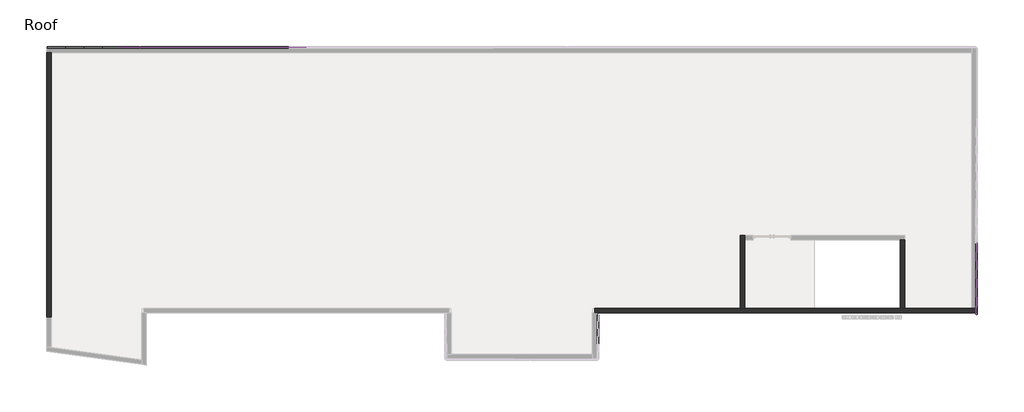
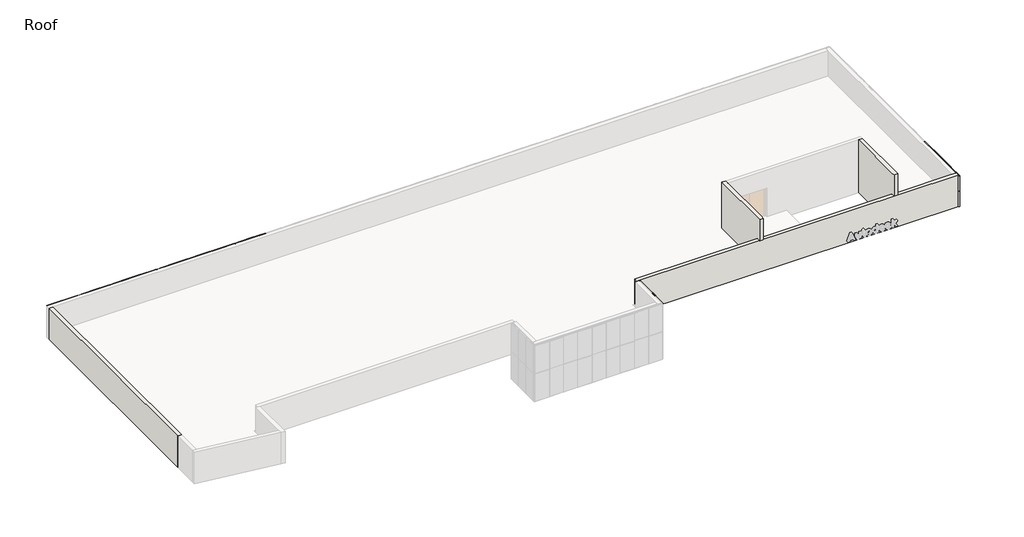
# One storey, part 2 of 5: 70 members, 37 plates, 4 walls.
"""IFC4 building model written with IfcOpenShell, lengths in millimetres."""

from ifc_helpers import new_model, si_unit, frame, origin, place, context, project, spatial, polyline, outline, extrude, faceted_brep, transform, mapped, element, save
from components import rectangular_mullion_25x25mm_786a5d36, rectangular_mullion_25x25mm_00ce815f, rectangular_mullion_25x25mm_09969e68, rectangular_mullion_25x25mm_ef735152, rectangular_mullion_25x25mm_e862664b, rectangular_mullion_25x25mm_75dba7a0, rectangular_mullion_25x25mm_4965c664, rectangular_mullion_25x25mm_c76a5620, rectangular_mullion_25x25mm_8def5214, rectangular_mullion_25x25mm_4aee0d92, rectangular_mullion_25x25mm_b2ae1b76, curtain_panels_solid_solid_panel_green_f9f5bd6f, curtain_panels_solid_solid_panel_green_e697928e, curtain_panels_solid_solid_panel_green_c18a3c81, curtain_panels_solid_solid_panel_green_cec9bcfa

model = new_model("IFC4")

# Units and contexts
model_context = context("Model", 3, world=origin())
ifc_project = project(units=[si_unit("LENGTHUNIT", "METRE", prefix="MILLI")], contexts=[model_context])

# Site, building, storey
site = spatial("IfcSite", under=ifc_project)
building = spatial("IfcBuilding", under=site)
storey = spatial("IfcBuildingStorey", under=building, Name="Roof", Elevation=14600.0)

# Members
placement = place(None, origin())
rectangular_mullion_25x25mm_shape = rectangular_mullion_25x25mm_786a5d36(model_context)
element("IfcMember", 1, ObjectType="Rectangular Mullion : 25x25mm", at=placement, inside=storey, context=model_context, shape_type="MappedRepresentation", body=[
    mapped(rectangular_mullion_25x25mm_shape, transform((24873.2942367, -3535.0053409, 13110.0), x_axis=(0.0, 0.0, -1.0), y_axis=(-1.0, 0.0, 0.0), z_axis=(0.0, 1.0, 0.0))),
])
rectangular_mullion_25x25mm_2_shape = rectangular_mullion_25x25mm_00ce815f(model_context)
element("IfcMember", 2, ObjectType="Rectangular Mullion : 25x25mm", at=placement, inside=storey, context=model_context, shape_type="MappedRepresentation", body=[
    mapped(rectangular_mullion_25x25mm_2_shape, transform((24873.2942367, -4237.505341, 14805.0), x_axis=(0.0, 0.0, 1.0), y_axis=(-1.0, 0.0, 0.0), z_axis=(0.0, -1.0, 0.0))),
])
rectangular_mullion_25x25mm_3_shape = rectangular_mullion_25x25mm_09969e68(model_context)
element("IfcMember", 3, ObjectType="Rectangular Mullion : 25x25mm", at=placement, inside=storey, context=model_context, shape_type="MappedRepresentation", body=[
    mapped(rectangular_mullion_25x25mm_3_shape, transform((24873.2942367, -4965.0053408, 14805.0), x_axis=(0.0, 0.0, 1.0), y_axis=(-1.0, 0.0, 0.0), z_axis=(0.0, -1.0, 0.0))),
])
rectangular_mullion_25x25mm_4_shape = rectangular_mullion_25x25mm_ef735152(model_context)
element("IfcMember", 4, ObjectType="Rectangular Mullion : 25x25mm", at=placement, inside=storey, context=model_context, shape_type="MappedRepresentation", body=[
    mapped(rectangular_mullion_25x25mm_4_shape, transform((1944.8590028, 9309.2487558, 14625.0), x_axis=(-1.0, 0.0, 0.0), y_axis=(0.0, 1.0, 0.0), z_axis=(0.0, 0.0, -1.0))),
])
element("IfcMember", 5, ObjectType="Rectangular Mullion : 25x25mm", at=placement, inside=storey, context=model_context, shape_type="MappedRepresentation", body=[
    mapped(rectangular_mullion_25x25mm_4_shape, transform((2839.129334, 9309.2487558, 14625.0), x_axis=(-1.0, 0.0, 0.0), y_axis=(0.0, 1.0, 0.0), z_axis=(0.0, 0.0, -1.0))),
])
element("IfcMember", 6, ObjectType="Rectangular Mullion : 25x25mm", at=placement, inside=storey, context=model_context, shape_type="MappedRepresentation", body=[
    mapped(rectangular_mullion_25x25mm_4_shape, transform((3733.3996651, 9309.2487558, 14625.0), x_axis=(-1.0, 0.0, 0.0), y_axis=(0.0, 1.0, 0.0), z_axis=(0.0, 0.0, -1.0))),
])
element("IfcMember", 7, ObjectType="Rectangular Mullion : 25x25mm", at=placement, inside=storey, context=model_context, shape_type="MappedRepresentation", body=[
    mapped(rectangular_mullion_25x25mm_4_shape, transform((4627.6699963, 9309.2487558, 14625.0), x_axis=(-1.0, 0.0, 0.0), y_axis=(0.0, 1.0, 0.0), z_axis=(0.0, 0.0, -1.0))),
])
element("IfcMember", 8, ObjectType="Rectangular Mullion : 25x25mm", at=placement, inside=storey, context=model_context, shape_type="MappedRepresentation", body=[
    mapped(rectangular_mullion_25x25mm_4_shape, transform((5521.9403275, 9309.2487558, 14625.0), x_axis=(-1.0, 0.0, 0.0), y_axis=(0.0, 1.0, 0.0), z_axis=(0.0, 0.0, -1.0))),
])
element("IfcMember", 9, ObjectType="Rectangular Mullion : 25x25mm", at=placement, inside=storey, context=model_context, shape_type="MappedRepresentation", body=[
    mapped(rectangular_mullion_25x25mm_4_shape, transform((6416.2106586, 9309.2487558, 14625.0), x_axis=(-1.0, 0.0, 0.0), y_axis=(0.0, 1.0, 0.0), z_axis=(0.0, 0.0, -1.0))),
])
element("IfcMember", 10, ObjectType="Rectangular Mullion : 25x25mm", at=placement, inside=storey, context=model_context, shape_type="MappedRepresentation", body=[
    mapped(rectangular_mullion_25x25mm_4_shape, transform((7310.4809898, 9309.2487558, 14625.0), x_axis=(-1.0, 0.0, 0.0), y_axis=(0.0, 1.0, 0.0), z_axis=(0.0, 0.0, -1.0))),
])
element("IfcMember", 11, ObjectType="Rectangular Mullion : 25x25mm", at=placement, inside=storey, context=model_context, shape_type="MappedRepresentation", body=[
    mapped(rectangular_mullion_25x25mm_4_shape, transform((8204.751321, 9309.2487558, 14625.0), x_axis=(-1.0, 0.0, 0.0), y_axis=(0.0, 1.0, 0.0), z_axis=(0.0, 0.0, -1.0))),
])
element("IfcMember", 12, ObjectType="Rectangular Mullion : 25x25mm", at=placement, inside=storey, context=model_context, shape_type="MappedRepresentation", body=[
    mapped(rectangular_mullion_25x25mm_4_shape, transform((43093.7942367, -122.3709149, 14625.0), x_axis=(0.0, 1.0, 0.0), y_axis=(1.0, 0.0, 0.0), z_axis=(0.0, 0.0, -1.0))),
])
element("IfcMember", 13, ObjectType="Rectangular Mullion : 25x25mm", at=placement, inside=storey, context=model_context, shape_type="MappedRepresentation", body=[
    mapped(rectangular_mullion_25x25mm_4_shape, transform((43093.7942367, -978.6545213, 14625.0), x_axis=(0.0, 1.0, 0.0), y_axis=(1.0, 0.0, 0.0), z_axis=(0.0, 0.0, -1.0))),
])
element("IfcMember", 14, ObjectType="Rectangular Mullion : 25x25mm", at=placement, inside=storey, context=model_context, shape_type="MappedRepresentation", body=[
    mapped(rectangular_mullion_25x25mm_4_shape, transform((43093.7942367, -1834.9381277, 14625.0), x_axis=(0.0, 1.0, 0.0), y_axis=(1.0, 0.0, 0.0), z_axis=(0.0, 0.0, -1.0))),
])
element("IfcMember", 15, ObjectType="Rectangular Mullion : 25x25mm", at=placement, inside=storey, context=model_context, shape_type="MappedRepresentation", body=[
    mapped(rectangular_mullion_25x25mm_4_shape, transform((43093.7942367, -2691.2217341, 14625.0), x_axis=(0.0, 1.0, 0.0), y_axis=(1.0, 0.0, 0.0), z_axis=(0.0, 0.0, -1.0))),
])
element("IfcMember", 16, ObjectType="Rectangular Mullion : 25x25mm", at=placement, inside=storey, context=model_context, shape_type="MappedRepresentation", body=[
    mapped(rectangular_mullion_25x25mm_4_shape, transform((1944.8590028, 9309.2487558, 15550.0), x_axis=(-1.0, 0.0, 0.0), y_axis=(0.0, 1.0, 0.0), z_axis=(0.0, 0.0, -1.0))),
])
element("IfcMember", 17, ObjectType="Rectangular Mullion : 25x25mm", at=placement, inside=storey, context=model_context, shape_type="MappedRepresentation", body=[
    mapped(rectangular_mullion_25x25mm_4_shape, transform((2839.129334, 9309.2487558, 15550.0), x_axis=(-1.0, 0.0, 0.0), y_axis=(0.0, 1.0, 0.0), z_axis=(0.0, 0.0, -1.0))),
])
element("IfcMember", 18, ObjectType="Rectangular Mullion : 25x25mm", at=placement, inside=storey, context=model_context, shape_type="MappedRepresentation", body=[
    mapped(rectangular_mullion_25x25mm_4_shape, transform((3733.3996651, 9309.2487558, 15550.0), x_axis=(-1.0, 0.0, 0.0), y_axis=(0.0, 1.0, 0.0), z_axis=(0.0, 0.0, -1.0))),
])
element("IfcMember", 19, ObjectType="Rectangular Mullion : 25x25mm", at=placement, inside=storey, context=model_context, shape_type="MappedRepresentation", body=[
    mapped(rectangular_mullion_25x25mm_4_shape, transform((4627.6699963, 9309.2487558, 15550.0), x_axis=(-1.0, 0.0, 0.0), y_axis=(0.0, 1.0, 0.0), z_axis=(0.0, 0.0, -1.0))),
])
element("IfcMember", 20, ObjectType="Rectangular Mullion : 25x25mm", at=placement, inside=storey, context=model_context, shape_type="MappedRepresentation", body=[
    mapped(rectangular_mullion_25x25mm_4_shape, transform((5521.9403275, 9309.2487558, 15550.0), x_axis=(-1.0, 0.0, 0.0), y_axis=(0.0, 1.0, 0.0), z_axis=(0.0, 0.0, -1.0))),
])
element("IfcMember", 21, ObjectType="Rectangular Mullion : 25x25mm", at=placement, inside=storey, context=model_context, shape_type="MappedRepresentation", body=[
    mapped(rectangular_mullion_25x25mm_4_shape, transform((6416.2106586, 9309.2487558, 15550.0), x_axis=(-1.0, 0.0, 0.0), y_axis=(0.0, 1.0, 0.0), z_axis=(0.0, 0.0, -1.0))),
])
element("IfcMember", 22, ObjectType="Rectangular Mullion : 25x25mm", at=placement, inside=storey, context=model_context, shape_type="MappedRepresentation", body=[
    mapped(rectangular_mullion_25x25mm_4_shape, transform((7310.4809898, 9309.2487558, 15550.0), x_axis=(-1.0, 0.0, 0.0), y_axis=(0.0, 1.0, 0.0), z_axis=(0.0, 0.0, -1.0))),
])
element("IfcMember", 23, ObjectType="Rectangular Mullion : 25x25mm", at=placement, inside=storey, context=model_context, shape_type="MappedRepresentation", body=[
    mapped(rectangular_mullion_25x25mm_4_shape, transform((8204.751321, 9309.2487558, 15550.0), x_axis=(-1.0, 0.0, 0.0), y_axis=(0.0, 1.0, 0.0), z_axis=(0.0, 0.0, -1.0))),
])
element("IfcMember", 24, ObjectType="Rectangular Mullion : 25x25mm", at=placement, inside=storey, context=model_context, shape_type="MappedRepresentation", body=[
    mapped(rectangular_mullion_25x25mm_4_shape, transform((43093.7942367, -122.3709149, 15550.0), x_axis=(0.0, 1.0, 0.0), y_axis=(1.0, 0.0, 0.0), z_axis=(0.0, 0.0, -1.0))),
])
element("IfcMember", 25, ObjectType="Rectangular Mullion : 25x25mm", at=placement, inside=storey, context=model_context, shape_type="MappedRepresentation", body=[
    mapped(rectangular_mullion_25x25mm_4_shape, transform((43093.7942367, -978.6545213, 15550.0), x_axis=(0.0, 1.0, 0.0), y_axis=(1.0, 0.0, 0.0), z_axis=(0.0, 0.0, -1.0))),
])
element("IfcMember", 26, ObjectType="Rectangular Mullion : 25x25mm", at=placement, inside=storey, context=model_context, shape_type="MappedRepresentation", body=[
    mapped(rectangular_mullion_25x25mm_4_shape, transform((43093.7942367, -1834.9381277, 15550.0), x_axis=(0.0, 1.0, 0.0), y_axis=(1.0, 0.0, 0.0), z_axis=(0.0, 0.0, -1.0))),
])
element("IfcMember", 27, ObjectType="Rectangular Mullion : 25x25mm", at=placement, inside=storey, context=model_context, shape_type="MappedRepresentation", body=[
    mapped(rectangular_mullion_25x25mm_4_shape, transform((43093.7942367, -2691.2217341, 15550.0), x_axis=(0.0, 1.0, 0.0), y_axis=(1.0, 0.0, 0.0), z_axis=(0.0, 0.0, -1.0))),
])
rectangular_mullion_25x25mm_5_shape = rectangular_mullion_25x25mm_e862664b(model_context)
element("IfcMember", 28, ObjectType="Rectangular Mullion : 25x25mm", at=placement, inside=storey, context=model_context, shape_type="MappedRepresentation", body=[
    mapped(rectangular_mullion_25x25mm_5_shape, transform((9993.2919833, 9309.2487558, 16500.0), x_axis=(0.0, 0.0, 1.0), y_axis=(0.0, 1.0, 0.0), z_axis=(-1.0, 0.0, 0.0))),
])
element("IfcMember", 29, ObjectType="Rectangular Mullion : 25x25mm", at=placement, inside=storey, context=model_context, shape_type="MappedRepresentation", body=[
    mapped(rectangular_mullion_25x25mm_5_shape, transform((9099.0216521, 9309.2487558, 16500.0), x_axis=(0.0, 0.0, 1.0), y_axis=(0.0, 1.0, 0.0), z_axis=(-1.0, 0.0, 0.0))),
])
element("IfcMember", 30, ObjectType="Rectangular Mullion : 25x25mm", at=placement, inside=storey, context=model_context, shape_type="MappedRepresentation", body=[
    mapped(rectangular_mullion_25x25mm_5_shape, transform((8204.751321, 9309.2487558, 16500.0), x_axis=(0.0, 0.0, 1.0), y_axis=(0.0, 1.0, 0.0), z_axis=(-1.0, 0.0, 0.0))),
])
element("IfcMember", 31, ObjectType="Rectangular Mullion : 25x25mm", at=placement, inside=storey, context=model_context, shape_type="MappedRepresentation", body=[
    mapped(rectangular_mullion_25x25mm_5_shape, transform((7310.4809898, 9309.2487558, 16500.0), x_axis=(0.0, 0.0, 1.0), y_axis=(0.0, 1.0, 0.0), z_axis=(-1.0, 0.0, 0.0))),
])
element("IfcMember", 32, ObjectType="Rectangular Mullion : 25x25mm", at=placement, inside=storey, context=model_context, shape_type="MappedRepresentation", body=[
    mapped(rectangular_mullion_25x25mm_5_shape, transform((6416.2106586, 9309.2487558, 16500.0), x_axis=(0.0, 0.0, 1.0), y_axis=(0.0, 1.0, 0.0), z_axis=(-1.0, 0.0, 0.0))),
])
element("IfcMember", 33, ObjectType="Rectangular Mullion : 25x25mm", at=placement, inside=storey, context=model_context, shape_type="MappedRepresentation", body=[
    mapped(rectangular_mullion_25x25mm_5_shape, transform((5521.9403275, 9309.2487558, 16500.0), x_axis=(0.0, 0.0, 1.0), y_axis=(0.0, 1.0, 0.0), z_axis=(-1.0, 0.0, 0.0))),
])
element("IfcMember", 34, ObjectType="Rectangular Mullion : 25x25mm", at=placement, inside=storey, context=model_context, shape_type="MappedRepresentation", body=[
    mapped(rectangular_mullion_25x25mm_5_shape, transform((4627.6699963, 9309.2487558, 16500.0), x_axis=(0.0, 0.0, 1.0), y_axis=(0.0, 1.0, 0.0), z_axis=(-1.0, 0.0, 0.0))),
])
element("IfcMember", 35, ObjectType="Rectangular Mullion : 25x25mm", at=placement, inside=storey, context=model_context, shape_type="MappedRepresentation", body=[
    mapped(rectangular_mullion_25x25mm_5_shape, transform((3733.3996651, 9309.2487558, 16500.0), x_axis=(0.0, 0.0, 1.0), y_axis=(0.0, 1.0, 0.0), z_axis=(-1.0, 0.0, 0.0))),
])
element("IfcMember", 36, ObjectType="Rectangular Mullion : 25x25mm", at=placement, inside=storey, context=model_context, shape_type="MappedRepresentation", body=[
    mapped(rectangular_mullion_25x25mm_5_shape, transform((2839.129334, 9309.2487558, 16500.0), x_axis=(0.0, 0.0, 1.0), y_axis=(0.0, 1.0, 0.0), z_axis=(-1.0, 0.0, 0.0))),
])
element("IfcMember", 37, ObjectType="Rectangular Mullion : 25x25mm", at=placement, inside=storey, context=model_context, shape_type="MappedRepresentation", body=[
    mapped(rectangular_mullion_25x25mm_5_shape, transform((1944.8590028, 9309.2487558, 16500.0), x_axis=(0.0, 0.0, 1.0), y_axis=(0.0, 1.0, 0.0), z_axis=(-1.0, 0.0, 0.0))),
])
element("IfcMember", 38, ObjectType="Rectangular Mullion : 25x25mm", at=placement, inside=storey, context=model_context, shape_type="MappedRepresentation", body=[
    mapped(rectangular_mullion_25x25mm_5_shape, transform((8204.751321, 9309.2487558, 14600.0), x_axis=(0.0, 0.0, -1.0), y_axis=(0.0, 1.0, 0.0), z_axis=(1.0, 0.0, 0.0))),
])
element("IfcMember", 39, ObjectType="Rectangular Mullion : 25x25mm", at=placement, inside=storey, context=model_context, shape_type="MappedRepresentation", body=[
    mapped(rectangular_mullion_25x25mm_5_shape, transform((7310.4809898, 9309.2487558, 14600.0), x_axis=(0.0, 0.0, -1.0), y_axis=(0.0, 1.0, 0.0), z_axis=(1.0, 0.0, 0.0))),
])
element("IfcMember", 40, ObjectType="Rectangular Mullion : 25x25mm", at=placement, inside=storey, context=model_context, shape_type="MappedRepresentation", body=[
    mapped(rectangular_mullion_25x25mm_5_shape, transform((6416.2106586, 9309.2487558, 14600.0), x_axis=(0.0, 0.0, -1.0), y_axis=(0.0, 1.0, 0.0), z_axis=(1.0, 0.0, 0.0))),
])
element("IfcMember", 41, ObjectType="Rectangular Mullion : 25x25mm", at=placement, inside=storey, context=model_context, shape_type="MappedRepresentation", body=[
    mapped(rectangular_mullion_25x25mm_5_shape, transform((5521.9403275, 9309.2487558, 14600.0), x_axis=(0.0, 0.0, -1.0), y_axis=(0.0, 1.0, 0.0), z_axis=(1.0, 0.0, 0.0))),
])
element("IfcMember", 42, ObjectType="Rectangular Mullion : 25x25mm", at=placement, inside=storey, context=model_context, shape_type="MappedRepresentation", body=[
    mapped(rectangular_mullion_25x25mm_5_shape, transform((4627.6699963, 9309.2487558, 14600.0), x_axis=(0.0, 0.0, -1.0), y_axis=(0.0, 1.0, 0.0), z_axis=(1.0, 0.0, 0.0))),
])
element("IfcMember", 43, ObjectType="Rectangular Mullion : 25x25mm", at=placement, inside=storey, context=model_context, shape_type="MappedRepresentation", body=[
    mapped(rectangular_mullion_25x25mm_5_shape, transform((3733.3996651, 9309.2487558, 14600.0), x_axis=(0.0, 0.0, -1.0), y_axis=(0.0, 1.0, 0.0), z_axis=(1.0, 0.0, 0.0))),
])
element("IfcMember", 44, ObjectType="Rectangular Mullion : 25x25mm", at=placement, inside=storey, context=model_context, shape_type="MappedRepresentation", body=[
    mapped(rectangular_mullion_25x25mm_5_shape, transform((2839.129334, 9309.2487558, 14600.0), x_axis=(0.0, 0.0, -1.0), y_axis=(0.0, 1.0, 0.0), z_axis=(1.0, 0.0, 0.0))),
])
element("IfcMember", 45, ObjectType="Rectangular Mullion : 25x25mm", at=placement, inside=storey, context=model_context, shape_type="MappedRepresentation", body=[
    mapped(rectangular_mullion_25x25mm_5_shape, transform((1944.8590028, 9309.2487558, 14600.0), x_axis=(0.0, 0.0, -1.0), y_axis=(0.0, 1.0, 0.0), z_axis=(1.0, 0.0, 0.0))),
])
rectangular_mullion_25x25mm_6_shape = rectangular_mullion_25x25mm_75dba7a0(model_context)
element("IfcMember", 46, ObjectType="Rectangular Mullion : 25x25mm", at=placement, inside=storey, context=model_context, shape_type="MappedRepresentation", body=[
    mapped(rectangular_mullion_25x25mm_6_shape, transform((8217.251321, 9309.2487558, 15550.0), x_axis=(0.0, 0.0, 1.0), y_axis=(0.0, 1.0, 0.0), z_axis=(-1.0, 0.0, 0.0))),
])
element("IfcMember", 47, ObjectType="Rectangular Mullion : 25x25mm", at=placement, inside=storey, context=model_context, shape_type="MappedRepresentation", body=[
    mapped(rectangular_mullion_25x25mm_6_shape, transform((7322.9809898, 9309.2487558, 15550.0), x_axis=(0.0, 0.0, 1.0), y_axis=(0.0, 1.0, 0.0), z_axis=(-1.0, 0.0, 0.0))),
])
element("IfcMember", 48, ObjectType="Rectangular Mullion : 25x25mm", at=placement, inside=storey, context=model_context, shape_type="MappedRepresentation", body=[
    mapped(rectangular_mullion_25x25mm_6_shape, transform((6428.7106586, 9309.2487558, 15550.0), x_axis=(0.0, 0.0, 1.0), y_axis=(0.0, 1.0, 0.0), z_axis=(-1.0, 0.0, 0.0))),
])
element("IfcMember", 49, ObjectType="Rectangular Mullion : 25x25mm", at=placement, inside=storey, context=model_context, shape_type="MappedRepresentation", body=[
    mapped(rectangular_mullion_25x25mm_6_shape, transform((5534.4403275, 9309.2487558, 15550.0), x_axis=(0.0, 0.0, 1.0), y_axis=(0.0, 1.0, 0.0), z_axis=(-1.0, 0.0, 0.0))),
])
element("IfcMember", 50, ObjectType="Rectangular Mullion : 25x25mm", at=placement, inside=storey, context=model_context, shape_type="MappedRepresentation", body=[
    mapped(rectangular_mullion_25x25mm_6_shape, transform((4640.1699963, 9309.2487558, 15550.0), x_axis=(0.0, 0.0, 1.0), y_axis=(0.0, 1.0, 0.0), z_axis=(-1.0, 0.0, 0.0))),
])
element("IfcMember", 51, ObjectType="Rectangular Mullion : 25x25mm", at=placement, inside=storey, context=model_context, shape_type="MappedRepresentation", body=[
    mapped(rectangular_mullion_25x25mm_6_shape, transform((3745.8996651, 9309.2487558, 15550.0), x_axis=(0.0, 0.0, 1.0), y_axis=(0.0, 1.0, 0.0), z_axis=(-1.0, 0.0, 0.0))),
])
element("IfcMember", 52, ObjectType="Rectangular Mullion : 25x25mm", at=placement, inside=storey, context=model_context, shape_type="MappedRepresentation", body=[
    mapped(rectangular_mullion_25x25mm_6_shape, transform((2851.629334, 9309.2487558, 15550.0), x_axis=(0.0, 0.0, 1.0), y_axis=(0.0, 1.0, 0.0), z_axis=(-1.0, 0.0, 0.0))),
])
element("IfcMember", 53, ObjectType="Rectangular Mullion : 25x25mm", at=placement, inside=storey, context=model_context, shape_type="MappedRepresentation", body=[
    mapped(rectangular_mullion_25x25mm_6_shape, transform((1957.3590028, 9309.2487558, 15550.0), x_axis=(0.0, 0.0, 1.0), y_axis=(0.0, 1.0, 0.0), z_axis=(-1.0, 0.0, 0.0))),
])
element("IfcMember", 54, ObjectType="Rectangular Mullion : 25x25mm", at=placement, inside=storey, context=model_context, shape_type="MappedRepresentation", body=[
    mapped(rectangular_mullion_25x25mm_6_shape, transform((1063.0886716, 9309.2487558, 15550.0), x_axis=(0.0, 0.0, 1.0), y_axis=(0.0, 1.0, 0.0), z_axis=(-1.0, 0.0, 0.0))),
])
rectangular_mullion_25x25mm_7_shape = rectangular_mullion_25x25mm_4965c664(model_context)
element("IfcMember", 55, ObjectType="Rectangular Mullion : 25x25mm", at=placement, inside=storey, context=model_context, shape_type="MappedRepresentation", body=[
    mapped(rectangular_mullion_25x25mm_7_shape, transform((43093.7942367, -1834.9381277, 16500.0), x_axis=(0.0, 0.0, 1.0), y_axis=(1.0, 0.0, 0.0), z_axis=(0.0, 1.0, 0.0))),
])
element("IfcMember", 56, ObjectType="Rectangular Mullion : 25x25mm", at=placement, inside=storey, context=model_context, shape_type="MappedRepresentation", body=[
    mapped(rectangular_mullion_25x25mm_7_shape, transform((43093.7942367, -978.6545213, 16500.0), x_axis=(0.0, 0.0, 1.0), y_axis=(1.0, 0.0, 0.0), z_axis=(0.0, 1.0, 0.0))),
])
element("IfcMember", 57, ObjectType="Rectangular Mullion : 25x25mm", at=placement, inside=storey, context=model_context, shape_type="MappedRepresentation", body=[
    mapped(rectangular_mullion_25x25mm_7_shape, transform((43093.7942367, -122.3709149, 16500.0), x_axis=(0.0, 0.0, 1.0), y_axis=(1.0, 0.0, 0.0), z_axis=(0.0, 1.0, 0.0))),
])
element("IfcMember", 58, ObjectType="Rectangular Mullion : 25x25mm", at=placement, inside=storey, context=model_context, shape_type="MappedRepresentation", body=[
    mapped(rectangular_mullion_25x25mm_7_shape, transform((43093.7942367, -2691.2217341, 14600.0), x_axis=(0.0, 0.0, -1.0), y_axis=(1.0, 0.0, 0.0), z_axis=(0.0, -1.0, 0.0))),
])
element("IfcMember", 59, ObjectType="Rectangular Mullion : 25x25mm", at=placement, inside=storey, context=model_context, shape_type="MappedRepresentation", body=[
    mapped(rectangular_mullion_25x25mm_7_shape, transform((43093.7942367, -1834.9381277, 14600.0), x_axis=(0.0, 0.0, -1.0), y_axis=(1.0, 0.0, 0.0), z_axis=(0.0, -1.0, 0.0))),
])
element("IfcMember", 60, ObjectType="Rectangular Mullion : 25x25mm", at=placement, inside=storey, context=model_context, shape_type="MappedRepresentation", body=[
    mapped(rectangular_mullion_25x25mm_7_shape, transform((43093.7942367, -978.6545213, 14600.0), x_axis=(0.0, 0.0, -1.0), y_axis=(1.0, 0.0, 0.0), z_axis=(0.0, -1.0, 0.0))),
])
element("IfcMember", 61, ObjectType="Rectangular Mullion : 25x25mm", at=placement, inside=storey, context=model_context, shape_type="MappedRepresentation", body=[
    mapped(rectangular_mullion_25x25mm_7_shape, transform((43093.7942367, -122.3709149, 14600.0), x_axis=(0.0, 0.0, -1.0), y_axis=(1.0, 0.0, 0.0), z_axis=(0.0, -1.0, 0.0))),
])
rectangular_mullion_25x25mm_8_shape = rectangular_mullion_25x25mm_c76a5620(model_context)
element("IfcMember", 62, ObjectType="Rectangular Mullion : 25x25mm", at=placement, inside=storey, context=model_context, shape_type="MappedRepresentation", body=[
    mapped(rectangular_mullion_25x25mm_8_shape, transform((43093.7942367, -1847.4381277, 15550.0), x_axis=(0.0, 0.0, 1.0), y_axis=(1.0, 0.0, 0.0), z_axis=(0.0, 1.0, 0.0))),
])
element("IfcMember", 63, ObjectType="Rectangular Mullion : 25x25mm", at=placement, inside=storey, context=model_context, shape_type="MappedRepresentation", body=[
    mapped(rectangular_mullion_25x25mm_8_shape, transform((43093.7942367, -991.1545213, 15550.0), x_axis=(0.0, 0.0, 1.0), y_axis=(1.0, 0.0, 0.0), z_axis=(0.0, 1.0, 0.0))),
])
element("IfcMember", 64, ObjectType="Rectangular Mullion : 25x25mm", at=placement, inside=storey, context=model_context, shape_type="MappedRepresentation", body=[
    mapped(rectangular_mullion_25x25mm_8_shape, transform((43093.7942367, -134.8709149, 15550.0), x_axis=(0.0, 0.0, 1.0), y_axis=(1.0, 0.0, 0.0), z_axis=(0.0, 1.0, 0.0))),
])
element("IfcMember", 65, ObjectType="Rectangular Mullion : 25x25mm", at=placement, inside=storey, context=model_context, shape_type="MappedRepresentation", body=[
    mapped(rectangular_mullion_25x25mm_8_shape, transform((43093.7942367, -2703.7217341, 15550.0), x_axis=(0.0, 0.0, 1.0), y_axis=(1.0, 0.0, 0.0), z_axis=(0.0, 1.0, 0.0))),
])
rectangular_mullion_25x25mm_9_shape = rectangular_mullion_25x25mm_8def5214(model_context)
element("IfcMember", 66, ObjectType="Rectangular Mullion : 25x25mm", at=placement, inside=storey, context=model_context, shape_type="MappedRepresentation", body=[
    mapped(rectangular_mullion_25x25mm_9_shape, transform((43093.7942367, -2691.2217341, 16500.0), x_axis=(0.0, 0.0, 1.0), y_axis=(1.0, 0.0, 0.0), z_axis=(0.0, 1.0, 0.0))),
])
rectangular_mullion_25x25mm_10_shape = rectangular_mullion_25x25mm_4aee0d92(model_context)
element("IfcMember", 67, ObjectType="Rectangular Mullion : 25x25mm", at=placement, inside=storey, context=model_context, shape_type="MappedRepresentation", body=[
    mapped(rectangular_mullion_25x25mm_10_shape, transform((24873.2942367, -4250.005341, 14805.0), x_axis=(0.0, -1.0, 0.0), y_axis=(-1.0, 0.0, 0.0), z_axis=(0.0, 0.0, -1.0))),
])
element("IfcMember", 68, ObjectType="Rectangular Mullion : 25x25mm", at=placement, inside=storey, context=model_context, shape_type="MappedRepresentation", body=[
    mapped(rectangular_mullion_25x25mm_10_shape, transform((24873.2942367, -4977.5053408, 14805.0), x_axis=(0.0, -1.0, 0.0), y_axis=(-1.0, 0.0, 0.0), z_axis=(0.0, 0.0, -1.0))),
])
rectangular_mullion_25x25mm_11_shape = rectangular_mullion_25x25mm_b2ae1b76(model_context)
element("IfcMember", 69, ObjectType="Rectangular Mullion : 25x25mm", at=placement, inside=storey, context=model_context, shape_type="MappedRepresentation", body=[
    mapped(rectangular_mullion_25x25mm_11_shape, transform((24873.2942367, -3535.0053409, 16475.0), x_axis=(0.0, 1.0, 0.0), y_axis=(-1.0, 0.0, 0.0), z_axis=(0.0, 0.0, 1.0))),
])
element("IfcMember", 70, ObjectType="Rectangular Mullion : 25x25mm", at=placement, inside=storey, context=model_context, shape_type="MappedRepresentation", body=[
    mapped(rectangular_mullion_25x25mm_11_shape, transform((24873.2942367, -3535.0053409, 14805.0), x_axis=(0.0, 1.0, 0.0), y_axis=(-1.0, 0.0, 0.0), z_axis=(0.0, 0.0, 1.0))),
])

# Plates
curtain_panels_solid_solid_panel_green_shape = curtain_panels_solid_solid_panel_green_f9f5bd6f(model_context)
element("IfcPlate", 71, ObjectType="Curtain_Panels_Solid : Solid_Panel_Green", at=placement, inside=storey, context=model_context, shape_type="MappedRepresentation", body=[
    mapped(curtain_panels_solid_solid_panel_green_shape, transform((603.4535061, 9309.2487558, 14625.0), x_axis=(-1.0, 0.0, 0.0), y_axis=(0.0, -1.0, 0.0), z_axis=(0.0, 0.0, 1.0))),
])
element("IfcPlate", 72, ObjectType="Curtain_Panels_Solid : Solid_Panel_Green", at=placement, inside=storey, context=model_context, shape_type="MappedRepresentation", body=[
    mapped(curtain_panels_solid_solid_panel_green_shape, transform((-290.8168251, 9309.2487558, 14625.0), x_axis=(-1.0, 0.0, 0.0), y_axis=(0.0, -1.0, 0.0), z_axis=(0.0, 0.0, 1.0))),
])
element("IfcPlate", 73, ObjectType="Curtain_Panels_Solid : Solid_Panel_Green", at=placement, inside=storey, context=model_context, shape_type="MappedRepresentation", body=[
    mapped(curtain_panels_solid_solid_panel_green_shape, transform((-1185.0871564, 9309.2487558, 14625.0), x_axis=(-1.0, 0.0, 0.0), y_axis=(0.0, -1.0, 0.0), z_axis=(0.0, 0.0, 1.0))),
])
element("IfcPlate", 74, ObjectType="Curtain_Panels_Solid : Solid_Panel_Green", at=placement, inside=storey, context=model_context, shape_type="MappedRepresentation", body=[
    mapped(curtain_panels_solid_solid_panel_green_shape, transform((603.4535061, 9309.2487558, 15562.5), x_axis=(-1.0, 0.0, 0.0), y_axis=(0.0, -1.0, 0.0), z_axis=(0.0, 0.0, 1.0))),
])
element("IfcPlate", 75, ObjectType="Curtain_Panels_Solid : Solid_Panel_Green", at=placement, inside=storey, context=model_context, shape_type="MappedRepresentation", body=[
    mapped(curtain_panels_solid_solid_panel_green_shape, transform((-290.8168251, 9309.2487558, 15562.5), x_axis=(-1.0, 0.0, 0.0), y_axis=(0.0, -1.0, 0.0), z_axis=(0.0, 0.0, 1.0))),
])
element("IfcPlate", 76, ObjectType="Curtain_Panels_Solid : Solid_Panel_Green", at=placement, inside=storey, context=model_context, shape_type="MappedRepresentation", body=[
    mapped(curtain_panels_solid_solid_panel_green_shape, transform((-1185.0871564, 9309.2487558, 15562.5), x_axis=(-1.0, 0.0, 0.0), y_axis=(0.0, -1.0, 0.0), z_axis=(0.0, 0.0, 1.0))),
])
element("IfcPlate", 77, ObjectType="Curtain_Panels_Solid : Solid_Panel_Green", at=placement, inside=storey, context=model_context, shape_type="MappedRepresentation", body=[
    mapped(curtain_panels_solid_solid_panel_green_shape, transform((1497.7238372, 9309.2487558, 14625.0), x_axis=(-1.0, 0.0, 0.0), y_axis=(0.0, -1.0, 0.0), z_axis=(0.0, 0.0, 1.0))),
])
element("IfcPlate", 78, ObjectType="Curtain_Panels_Solid : Solid_Panel_Green", at=placement, inside=storey, context=model_context, shape_type="MappedRepresentation", body=[
    mapped(curtain_panels_solid_solid_panel_green_shape, transform((1497.7238372, 9309.2487558, 15562.5), x_axis=(-1.0, 0.0, 0.0), y_axis=(0.0, -1.0, 0.0), z_axis=(0.0, 0.0, 1.0))),
])
element("IfcPlate", 79, ObjectType="Curtain_Panels_Solid : Solid_Panel_Green", at=placement, inside=storey, context=model_context, shape_type="MappedRepresentation", body=[
    mapped(curtain_panels_solid_solid_panel_green_shape, transform((2391.9941684, 9309.2487558, 14625.0), x_axis=(-1.0, 0.0, 0.0), y_axis=(0.0, -1.0, 0.0), z_axis=(0.0, 0.0, 1.0))),
])
element("IfcPlate", 80, ObjectType="Curtain_Panels_Solid : Solid_Panel_Green", at=placement, inside=storey, context=model_context, shape_type="MappedRepresentation", body=[
    mapped(curtain_panels_solid_solid_panel_green_shape, transform((2391.9941684, 9309.2487558, 15562.5), x_axis=(-1.0, 0.0, 0.0), y_axis=(0.0, -1.0, 0.0), z_axis=(0.0, 0.0, 1.0))),
])
element("IfcPlate", 81, ObjectType="Curtain_Panels_Solid : Solid_Panel_Green", at=placement, inside=storey, context=model_context, shape_type="MappedRepresentation", body=[
    mapped(curtain_panels_solid_solid_panel_green_shape, transform((3286.2644996, 9309.2487558, 14625.0), x_axis=(-1.0, 0.0, 0.0), y_axis=(0.0, -1.0, 0.0), z_axis=(0.0, 0.0, 1.0))),
])
element("IfcPlate", 82, ObjectType="Curtain_Panels_Solid : Solid_Panel_Green", at=placement, inside=storey, context=model_context, shape_type="MappedRepresentation", body=[
    mapped(curtain_panels_solid_solid_panel_green_shape, transform((3286.2644996, 9309.2487558, 15562.5), x_axis=(-1.0, 0.0, 0.0), y_axis=(0.0, -1.0, 0.0), z_axis=(0.0, 0.0, 1.0))),
])
element("IfcPlate", 83, ObjectType="Curtain_Panels_Solid : Solid_Panel_Green", at=placement, inside=storey, context=model_context, shape_type="MappedRepresentation", body=[
    mapped(curtain_panels_solid_solid_panel_green_shape, transform((4180.5348307, 9309.2487558, 14625.0), x_axis=(-1.0, 0.0, 0.0), y_axis=(0.0, -1.0, 0.0), z_axis=(0.0, 0.0, 1.0))),
])
element("IfcPlate", 84, ObjectType="Curtain_Panels_Solid : Solid_Panel_Green", at=placement, inside=storey, context=model_context, shape_type="MappedRepresentation", body=[
    mapped(curtain_panels_solid_solid_panel_green_shape, transform((4180.5348307, 9309.2487558, 15562.5), x_axis=(-1.0, 0.0, 0.0), y_axis=(0.0, -1.0, 0.0), z_axis=(0.0, 0.0, 1.0))),
])
element("IfcPlate", 85, ObjectType="Curtain_Panels_Solid : Solid_Panel_Green", at=placement, inside=storey, context=model_context, shape_type="MappedRepresentation", body=[
    mapped(curtain_panels_solid_solid_panel_green_shape, transform((5074.8051619, 9309.2487558, 14625.0), x_axis=(-1.0, 0.0, 0.0), y_axis=(0.0, -1.0, 0.0), z_axis=(0.0, 0.0, 1.0))),
])
element("IfcPlate", 86, ObjectType="Curtain_Panels_Solid : Solid_Panel_Green", at=placement, inside=storey, context=model_context, shape_type="MappedRepresentation", body=[
    mapped(curtain_panels_solid_solid_panel_green_shape, transform((5074.8051619, 9309.2487558, 15562.5), x_axis=(-1.0, 0.0, 0.0), y_axis=(0.0, -1.0, 0.0), z_axis=(0.0, 0.0, 1.0))),
])
element("IfcPlate", 87, ObjectType="Curtain_Panels_Solid : Solid_Panel_Green", at=placement, inside=storey, context=model_context, shape_type="MappedRepresentation", body=[
    mapped(curtain_panels_solid_solid_panel_green_shape, transform((5969.075493, 9309.2487558, 14625.0), x_axis=(-1.0, 0.0, 0.0), y_axis=(0.0, -1.0, 0.0), z_axis=(0.0, 0.0, 1.0))),
])
element("IfcPlate", 88, ObjectType="Curtain_Panels_Solid : Solid_Panel_Green", at=placement, inside=storey, context=model_context, shape_type="MappedRepresentation", body=[
    mapped(curtain_panels_solid_solid_panel_green_shape, transform((5969.075493, 9309.2487558, 15562.5), x_axis=(-1.0, 0.0, 0.0), y_axis=(0.0, -1.0, 0.0), z_axis=(0.0, 0.0, 1.0))),
])
element("IfcPlate", 89, ObjectType="Curtain_Panels_Solid : Solid_Panel_Green", at=placement, inside=storey, context=model_context, shape_type="MappedRepresentation", body=[
    mapped(curtain_panels_solid_solid_panel_green_shape, transform((6863.3458242, 9309.2487558, 14625.0), x_axis=(-1.0, 0.0, 0.0), y_axis=(0.0, -1.0, 0.0), z_axis=(0.0, 0.0, 1.0))),
])
element("IfcPlate", 90, ObjectType="Curtain_Panels_Solid : Solid_Panel_Green", at=placement, inside=storey, context=model_context, shape_type="MappedRepresentation", body=[
    mapped(curtain_panels_solid_solid_panel_green_shape, transform((6863.3458242, 9309.2487558, 15562.5), x_axis=(-1.0, 0.0, 0.0), y_axis=(0.0, -1.0, 0.0), z_axis=(0.0, 0.0, 1.0))),
])
element("IfcPlate", 91, ObjectType="Curtain_Panels_Solid : Solid_Panel_Green", at=placement, inside=storey, context=model_context, shape_type="MappedRepresentation", body=[
    mapped(curtain_panels_solid_solid_panel_green_shape, transform((7757.6161554, 9309.2487558, 14625.0), x_axis=(-1.0, 0.0, 0.0), y_axis=(0.0, -1.0, 0.0), z_axis=(0.0, 0.0, 1.0))),
])
element("IfcPlate", 92, ObjectType="Curtain_Panels_Solid : Solid_Panel_Green", at=placement, inside=storey, context=model_context, shape_type="MappedRepresentation", body=[
    mapped(curtain_panels_solid_solid_panel_green_shape, transform((7757.6161554, 9309.2487558, 15562.5), x_axis=(-1.0, 0.0, 0.0), y_axis=(0.0, -1.0, 0.0), z_axis=(0.0, 0.0, 1.0))),
])
element("IfcPlate", 93, ObjectType="Curtain_Panels_Solid : Solid_Panel_Green", at=placement, inside=storey, context=model_context, shape_type="MappedRepresentation", body=[
    mapped(curtain_panels_solid_solid_panel_green_shape, transform((8651.8864865, 9309.2487558, 14625.0), x_axis=(-1.0, 0.0, 0.0), y_axis=(0.0, -1.0, 0.0), z_axis=(0.0, 0.0, 1.0))),
])
element("IfcPlate", 94, ObjectType="Curtain_Panels_Solid : Solid_Panel_Green", at=placement, inside=storey, context=model_context, shape_type="MappedRepresentation", body=[
    mapped(curtain_panels_solid_solid_panel_green_shape, transform((8651.8864865, 9309.2487558, 15562.5), x_axis=(-1.0, 0.0, 0.0), y_axis=(0.0, -1.0, 0.0), z_axis=(0.0, 0.0, 1.0))),
])
element("IfcPlate", 95, ObjectType="Curtain_Panels_Solid : Solid_Panel_Green", at=placement, inside=storey, context=model_context, shape_type="MappedRepresentation", body=[
    mapped(curtain_panels_solid_solid_panel_green_shape, transform((9546.1568177, 9309.2487558, 14625.0), x_axis=(-1.0, 0.0, 0.0), y_axis=(0.0, -1.0, 0.0), z_axis=(0.0, 0.0, 1.0))),
])
element("IfcPlate", 96, ObjectType="Curtain_Panels_Solid : Solid_Panel_Green", at=placement, inside=storey, context=model_context, shape_type="MappedRepresentation", body=[
    mapped(curtain_panels_solid_solid_panel_green_shape, transform((9546.1568177, 9309.2487558, 15562.5), x_axis=(-1.0, 0.0, 0.0), y_axis=(0.0, -1.0, 0.0), z_axis=(0.0, 0.0, 1.0))),
])
curtain_panels_solid_solid_panel_green_2_shape = curtain_panels_solid_solid_panel_green_e697928e(model_context)
element("IfcPlate", 97, ObjectType="Curtain_Panels_Solid : Solid_Panel_Green", at=placement, inside=storey, context=model_context, shape_type="MappedRepresentation", body=[
    mapped(curtain_panels_solid_solid_panel_green_2_shape, transform((43093.7942367, -3119.3635375, 14625.0), x_axis=(0.0, 1.0, 0.0), y_axis=(-1.0, 0.0, 0.0), z_axis=(0.0, 0.0, 1.0))),
])
element("IfcPlate", 98, ObjectType="Curtain_Panels_Solid : Solid_Panel_Green", at=placement, inside=storey, context=model_context, shape_type="MappedRepresentation", body=[
    mapped(curtain_panels_solid_solid_panel_green_2_shape, transform((43093.7942367, -3119.3635375, 15562.5), x_axis=(0.0, 1.0, 0.0), y_axis=(-1.0, 0.0, 0.0), z_axis=(0.0, 0.0, 1.0))),
])
element("IfcPlate", 99, ObjectType="Curtain_Panels_Solid : Solid_Panel_Green", at=placement, inside=storey, context=model_context, shape_type="MappedRepresentation", body=[
    mapped(curtain_panels_solid_solid_panel_green_2_shape, transform((43093.7942367, -550.5127181, 14625.0), x_axis=(0.0, 1.0, 0.0), y_axis=(-1.0, 0.0, 0.0), z_axis=(0.0, 0.0, 1.0))),
])
element("IfcPlate", 100, ObjectType="Curtain_Panels_Solid : Solid_Panel_Green", at=placement, inside=storey, context=model_context, shape_type="MappedRepresentation", body=[
    mapped(curtain_panels_solid_solid_panel_green_2_shape, transform((43093.7942367, -550.5127181, 15562.5), x_axis=(0.0, 1.0, 0.0), y_axis=(-1.0, 0.0, 0.0), z_axis=(0.0, 0.0, 1.0))),
])
element("IfcPlate", 101, ObjectType="Curtain_Panels_Solid : Solid_Panel_Green", at=placement, inside=storey, context=model_context, shape_type="MappedRepresentation", body=[
    mapped(curtain_panels_solid_solid_panel_green_2_shape, transform((43093.7942367, -1406.7963245, 14625.0), x_axis=(0.0, 1.0, 0.0), y_axis=(-1.0, 0.0, 0.0), z_axis=(0.0, 0.0, 1.0))),
])
element("IfcPlate", 102, ObjectType="Curtain_Panels_Solid : Solid_Panel_Green", at=placement, inside=storey, context=model_context, shape_type="MappedRepresentation", body=[
    mapped(curtain_panels_solid_solid_panel_green_2_shape, transform((43093.7942367, -1406.7963245, 15562.5), x_axis=(0.0, 1.0, 0.0), y_axis=(-1.0, 0.0, 0.0), z_axis=(0.0, 0.0, 1.0))),
])
element("IfcPlate", 103, ObjectType="Curtain_Panels_Solid : Solid_Panel_Green", at=placement, inside=storey, context=model_context, shape_type="MappedRepresentation", body=[
    mapped(curtain_panels_solid_solid_panel_green_2_shape, transform((43093.7942367, -2263.0799309, 14625.0), x_axis=(0.0, 1.0, 0.0), y_axis=(-1.0, 0.0, 0.0), z_axis=(0.0, 0.0, 1.0))),
])
element("IfcPlate", 104, ObjectType="Curtain_Panels_Solid : Solid_Panel_Green", at=placement, inside=storey, context=model_context, shape_type="MappedRepresentation", body=[
    mapped(curtain_panels_solid_solid_panel_green_2_shape, transform((43093.7942367, -2263.0799309, 15562.5), x_axis=(0.0, 1.0, 0.0), y_axis=(-1.0, 0.0, 0.0), z_axis=(0.0, 0.0, 1.0))),
])
curtain_panels_solid_solid_panel_green_3_shape = curtain_panels_solid_solid_panel_green_c18a3c81(model_context)
element("IfcPlate", 105, ObjectType="Curtain_Panels_Solid : Solid_Panel_Green", at=placement, inside=storey, context=model_context, shape_type="MappedRepresentation", body=[
    mapped(curtain_panels_solid_solid_panel_green_3_shape, transform((24873.2942367, -3898.7553409, 13135.0), x_axis=(0.0, -1.0, 0.0), y_axis=(1.0, 0.0, 0.0), z_axis=(0.0, 0.0, 1.0))),
])
element("IfcPlate", 106, ObjectType="Curtain_Panels_Solid : Solid_Panel_Green", at=placement, inside=storey, context=model_context, shape_type="MappedRepresentation", body=[
    mapped(curtain_panels_solid_solid_panel_green_3_shape, transform((24873.2942367, -3898.7553409, 14817.5), x_axis=(0.0, -1.0, 0.0), y_axis=(1.0, 0.0, 0.0), z_axis=(0.0, 0.0, 1.0))),
])
curtain_panels_solid_solid_panel_green_4_shape = curtain_panels_solid_solid_panel_green_cec9bcfa(model_context)
element("IfcPlate", 107, ObjectType="Curtain_Panels_Solid : Solid_Panel_Green", at=placement, inside=storey, context=model_context, shape_type="MappedRepresentation", body=[
    mapped(curtain_panels_solid_solid_panel_green_4_shape, transform((24873.2942367, -4613.7553409, 14817.5), x_axis=(0.0, -1.0, 0.0), y_axis=(1.0, 0.0, 0.0), z_axis=(0.0, 0.0, 1.0))),
])

# Walls
element("IfcWall", 108, ObjectType="Wall-Ext_215Concrete", at=placement, inside=storey, context=model_context, shape_type="SweptSolid", body=[
    extrude(outline(polyline([(-1428.7223222, 9065.4025502), (-1428.7223222, -3687.5974498), (-1644.7223222, -3687.5974498), (-1644.7223222, 9065.4025502), (-1428.7223222, 9065.4025502)])), frame((0.0, 0.0, 14600.0), z_axis=(0.0, 0.0, 1.0), x_axis=(1.0, 0.0, 0.0)), (0.0, 0.0, 1.0), 1900.0),
])
element("IfcWall", 109, ObjectType="Wall-Ext_215Concrete", at=placement, inside=storey, context=model_context, shape_type="Brep", body=[
    faceted_brep([(43093.7942367, -3259.5053409, 14600.0), (42877.7942367, -3259.5053409, 14600.0), (39638.7942367, -3259.5053409, 14600.0), (39422.7942367, -3259.5053409, 14600.0), (31951.9942371, -3259.5053409, 14600.0), (31735.9942371, -3259.5053409, 14600.0), (24723.2942367, -3259.5053409, 14600.0), (24723.2942367, -3259.5053409, 16500.0), (31735.9942371, -3259.5053409, 16500.0), (31951.9942371, -3259.5053409, 16500.0), (39422.7942367, -3259.5053409, 16500.0), (39638.7942367, -3259.5053409, 16500.0), (42877.7942367, -3259.5053409, 16500.0), (43093.7942367, -3259.5053409, 16500.0), (43093.7942367, -3475.5053409, 14600.0), (43093.7942367, -3475.5053409, 16500.0), (24831.2942367, -3475.5053409, 16500.0), (24723.2942367, -3475.5053409, 16500.0), (24723.2942367, -3475.5053409, 14600.0), (24831.2942367, -3475.5053409, 14600.0)], [[[0, 1, 2, 3, 4, 5, 6, 7, 8, 9, 10, 11, 12, 13]], [[14, 15, 16, 17, 18, 19]], [[6, 5, 4, 3, 2, 1, 0, 14, 19, 18]], [[7, 6, 18, 17]], [[13, 12, 11, 10, 9, 8, 7, 17, 16, 15]], [[0, 13, 15, 14]]]),
])
element("IfcWall", 110, ObjectType="Wall-Ext_215Concrete", at=placement, inside=storey, context=model_context, shape_type="Brep", body=[
    faceted_brep([(31951.9942371, -3259.5053409, 14600.0), (31951.9942371, 41.3025492, 14600.0), (31951.9942371, 257.3025492, 14600.0), (31951.9942371, 257.3025492, 17783.0), (31951.9942371, 41.3025492, 17783.0), (31951.9942371, -3259.5053409, 17783.0), (31951.9942371, -3475.5053409, 17783.0), (31951.9942371, -3475.5053409, 16500.0), (31951.9942371, -3259.5053409, 16500.0), (31735.9942371, -3259.5053409, 14600.0), (31735.9942371, -3259.5053409, 16500.0), (31735.9942371, -3475.5053409, 16500.0), (31735.9942371, -3475.5053409, 17783.0), (31735.9942371, 257.3025492, 17783.0), (31735.9942371, 257.3025492, 14600.0)], [[[0, 1, 2, 3, 4, 5, 6, 7, 8]], [[9, 10, 11, 12, 13, 14]], [[2, 1, 0, 9, 14]], [[6, 5, 4, 3, 13, 12]], [[3, 2, 14, 13]], [[7, 11, 10, 8]], [[0, 8, 10, 9]], [[7, 6, 12, 11]]]),
])
element("IfcWall", 111, ObjectType="Wall-Ext_215Concrete", at=placement, inside=storey, context=model_context, shape_type="Brep", body=[
    faceted_brep([(39422.7942367, 41.3025492, 14600.0), (39422.7942367, -3259.5053409, 14600.0), (39422.7942367, -3259.5053409, 16500.0), (39422.7942367, -3475.5053409, 16500.0), (39422.7942367, -3475.5053409, 17783.0), (39422.7942367, -3259.5053409, 17783.0), (39422.7942367, 41.3025492, 17783.0), (39638.7942367, 41.3025492, 14600.0), (39638.7942367, 41.3025492, 17783.0), (39638.7942367, -3475.5053409, 17783.0), (39638.7942367, -3475.5053409, 16500.0), (39638.7942367, -3259.5053409, 16500.0), (39638.7942367, -3259.5053409, 14600.0)], [[[0, 1, 2, 3, 4, 5, 6]], [[7, 8, 9, 10, 11, 12]], [[1, 0, 7, 12]], [[6, 5, 4, 9, 8]], [[0, 6, 8, 7]], [[10, 3, 2, 11]], [[2, 1, 12, 11]], [[4, 3, 10, 9]]]),
])

save(model, "model.ifc")
